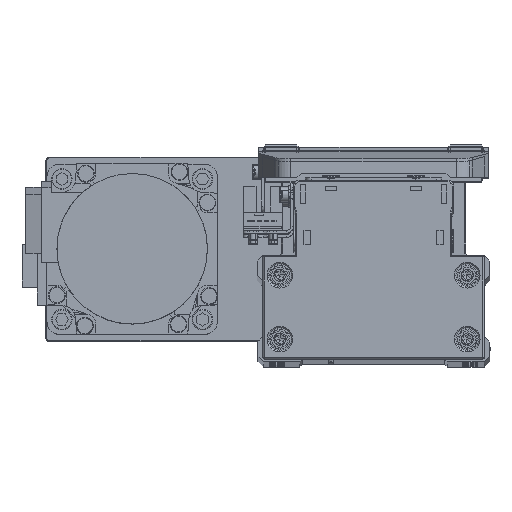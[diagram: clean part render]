
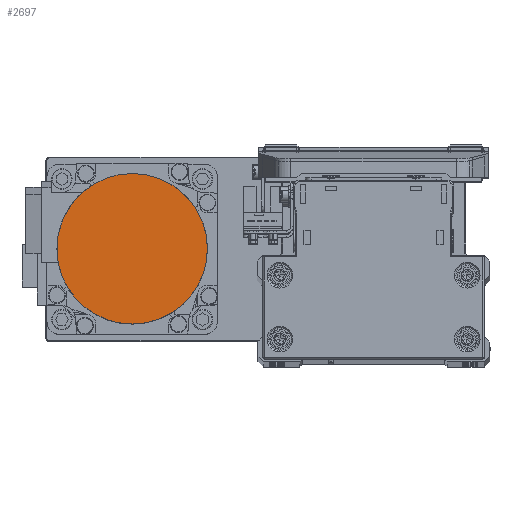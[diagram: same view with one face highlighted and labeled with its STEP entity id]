
A CAD part, top view. The second image highlights one B-rep face of the part: STEP entity #2697.
In plain terms, the highlighted planar face has unit normal (0, 0, 1) as drawn and (0, 0, -1) by its records, which use the part's own axes.
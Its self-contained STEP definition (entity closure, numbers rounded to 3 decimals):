
#2697 = ADVANCED_FACE ( 'NONE', ( #23040 ), #35829, .F. ) ;
#4455 = CIRCLE ( 'NONE', #27889, 26.5 ) ;
#5763 = DIRECTION ( 'NONE',  ( 0., 0., 1. ) ) ;
#6908 = CIRCLE ( 'NONE', #30362, 26.5 ) ;
#7090 = CARTESIAN_POINT ( 'NONE',  ( 0., 0., -109.7 ) ) ;
#8184 = VERTEX_POINT ( 'NONE', #33721 ) ;
#9259 = ORIENTED_EDGE ( 'NONE', *, *, #40867, .F. ) ;
#9934 = CARTESIAN_POINT ( 'NONE',  ( -26.5, 0., -109.7 ) ) ;
#10354 = VERTEX_POINT ( 'NONE', #9934 ) ;
#12328 = DIRECTION ( 'NONE',  ( 1., 0., 0. ) ) ;
#18549 = DIRECTION ( 'NONE',  ( -1., 0., 0. ) ) ;
#19878 = DIRECTION ( 'NONE',  ( 0., 0., 1. ) ) ;
#23040 = FACE_OUTER_BOUND ( 'NONE', #40984, .T. ) ;
#27889 = AXIS2_PLACEMENT_3D ( 'NONE', #28261, #41049, #12328 ) ;
#28261 = CARTESIAN_POINT ( 'NONE',  ( 0., 0., -109.7 ) ) ;
#30362 = AXIS2_PLACEMENT_3D ( 'NONE', #34506, #5763, #18549 ) ;
#32605 = ORIENTED_EDGE ( 'NONE', *, *, #37607, .F. ) ;
#32680 = DIRECTION ( 'NONE',  ( 1., 0., 0. ) ) ;
#33721 = CARTESIAN_POINT ( 'NONE',  ( 26.5, 0., -109.7 ) ) ;
#34506 = CARTESIAN_POINT ( 'NONE',  ( 0., 0., -109.7 ) ) ;
#34656 = AXIS2_PLACEMENT_3D ( 'NONE', #7090, #19878, #32680 ) ;
#35829 = PLANE ( 'NONE',  #34656 ) ;
#37607 = EDGE_CURVE ( 'NONE', #10354, #8184, #6908, .T. ) ;
#40867 = EDGE_CURVE ( 'NONE', #8184, #10354, #4455, .T. ) ;
#40984 = EDGE_LOOP ( 'NONE', ( #32605, #9259 ) ) ;
#41049 = DIRECTION ( 'NONE',  ( 0., 0., 1. ) ) ;
